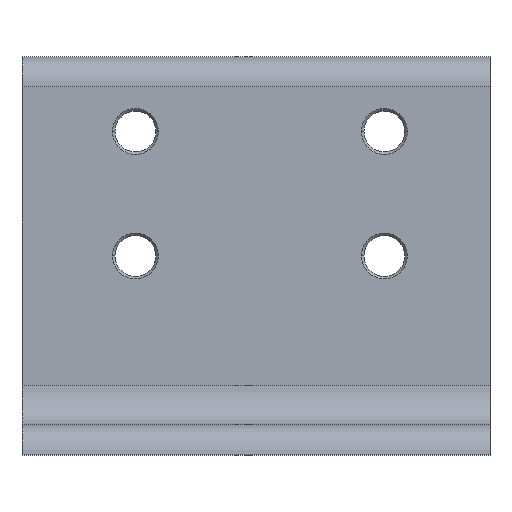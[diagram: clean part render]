
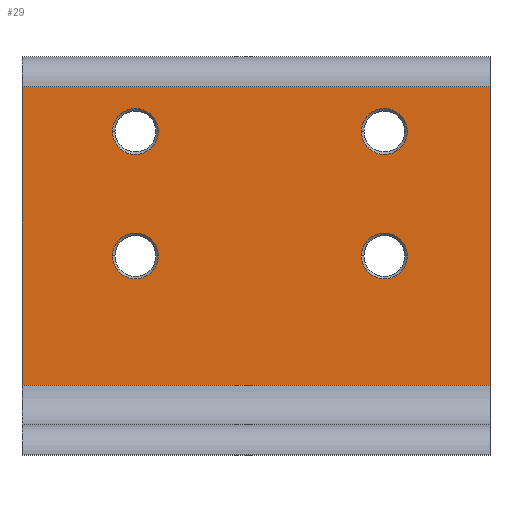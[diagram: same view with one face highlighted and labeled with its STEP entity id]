
A CAD part, top view. The second image highlights one B-rep face of the part: STEP entity #29.
In plain terms, the highlighted planar face has unit normal (0, 0, 1).
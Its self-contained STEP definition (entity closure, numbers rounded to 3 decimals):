
#5 = VERTEX_POINT ( 'NONE', #74 ) ;
#7 = PLANE ( 'NONE',  #789 ) ;
#8 = VERTEX_POINT ( 'NONE', #724 ) ;
#15 = CARTESIAN_POINT ( 'NONE',  ( 21.178, 40., -14. ) ) ;
#23 = CARTESIAN_POINT ( 'NONE',  ( 25.778, 65., -14. ) ) ;
#29 = ADVANCED_FACE ( 'NONE', ( #819, #475, #195, #1299, #1031 ), #7, .F. ) ;
#70 = CIRCLE ( 'NONE', #869, 4.6 ) ;
#73 = CARTESIAN_POINT ( 'NONE',  ( 47., 74., -14. ) ) ;
#74 = CARTESIAN_POINT ( 'NONE',  ( -47., 14., -14. ) ) ;
#77 = EDGE_CURVE ( 'NONE', #8, #290, #748, .T. ) ;
#83 = EDGE_LOOP ( 'NONE', ( #182, #430 ) ) ;
#88 = ORIENTED_EDGE ( 'NONE', *, *, #731, .T. ) ;
#103 = VECTOR ( 'NONE', #334, 1000. ) ;
#125 = DIRECTION ( 'NONE',  ( -1., 0., 0. ) ) ;
#156 = AXIS2_PLACEMENT_3D ( 'NONE', #1105, #448, #1204 ) ;
#160 = CARTESIAN_POINT ( 'NONE',  ( 25.778, 65., -14. ) ) ;
#164 = DIRECTION ( 'NONE',  ( -1., 0., 0. ) ) ;
#177 = DIRECTION ( 'NONE',  ( 0., 0., -1. ) ) ;
#182 = ORIENTED_EDGE ( 'NONE', *, *, #639, .T. ) ;
#190 = EDGE_LOOP ( 'NONE', ( #1353, #1069 ) ) ;
#195 = FACE_BOUND ( 'NONE', #83, .T. ) ;
#264 = DIRECTION ( 'NONE',  ( 0., 0., -1. ) ) ;
#265 = ORIENTED_EDGE ( 'NONE', *, *, #397, .T. ) ;
#274 = DIRECTION ( 'NONE',  ( -1., 0., 0. ) ) ;
#287 = DIRECTION ( 'NONE',  ( 0., 0., -1. ) ) ;
#290 = VERTEX_POINT ( 'NONE', #694 ) ;
#294 = EDGE_CURVE ( 'NONE', #883, #981, #880, .T. ) ;
#323 = CARTESIAN_POINT ( 'NONE',  ( -47., 80., -14. ) ) ;
#328 = EDGE_CURVE ( 'NONE', #1250, #985, #853, .T. ) ;
#332 = CIRCLE ( 'NONE', #1209, 4.6 ) ;
#334 = DIRECTION ( 'NONE',  ( 0., -1., 0. ) ) ;
#339 = CARTESIAN_POINT ( 'NONE',  ( 30.378, 65., -14. ) ) ;
#374 = ORIENTED_EDGE ( 'NONE', *, *, #708, .T. ) ;
#386 = CARTESIAN_POINT ( 'NONE',  ( -19.622, 40., -14. ) ) ;
#389 = AXIS2_PLACEMENT_3D ( 'NONE', #837, #177, #943 ) ;
#397 = EDGE_CURVE ( 'NONE', #1086, #765, #565, .T. ) ;
#415 = DIRECTION ( 'NONE',  ( -1., 0., 0. ) ) ;
#430 = ORIENTED_EDGE ( 'NONE', *, *, #294, .T. ) ;
#440 = CARTESIAN_POINT ( 'NONE',  ( -47., 74., -14. ) ) ;
#446 = DIRECTION ( 'NONE',  ( 0., 0., -1. ) ) ;
#448 = DIRECTION ( 'NONE',  ( 0., 0., -1. ) ) ;
#475 = FACE_BOUND ( 'NONE', #190, .T. ) ;
#515 = CARTESIAN_POINT ( 'NONE',  ( 47., 14., -14. ) ) ;
#536 = CARTESIAN_POINT ( 'NONE',  ( 25.778, 40., -14. ) ) ;
#565 = CIRCLE ( 'NONE', #389, 4.6 ) ;
#590 = DIRECTION ( 'NONE',  ( 0., 0., -1. ) ) ;
#600 = ORIENTED_EDGE ( 'NONE', *, *, #328, .T. ) ;
#606 = LINE ( 'NONE', #828, #1374 ) ;
#639 = EDGE_CURVE ( 'NONE', #981, #883, #717, .T. ) ;
#650 = DIRECTION ( 'NONE',  ( -1., 0., 0. ) ) ;
#654 = ORIENTED_EDGE ( 'NONE', *, *, #794, .T. ) ;
#694 = CARTESIAN_POINT ( 'NONE',  ( -28.822, 65., -14. ) ) ;
#697 = EDGE_CURVE ( 'NONE', #765, #1086, #70, .T. ) ;
#708 = EDGE_CURVE ( 'NONE', #5, #843, #606, .T. ) ;
#711 = CARTESIAN_POINT ( 'NONE',  ( -47., 74., -14. ) ) ;
#717 = CIRCLE ( 'NONE', #976, 4.6 ) ;
#724 = CARTESIAN_POINT ( 'NONE',  ( -19.622, 65., -14. ) ) ;
#731 = EDGE_CURVE ( 'NONE', #290, #8, #921, .T. ) ;
#741 = CIRCLE ( 'NONE', #1014, 4.6 ) ;
#748 = CIRCLE ( 'NONE', #156, 4.6 ) ;
#753 = CARTESIAN_POINT ( 'NONE',  ( 21.178, 65., -14. ) ) ;
#765 = VERTEX_POINT ( 'NONE', #386 ) ;
#778 = EDGE_CURVE ( 'NONE', #810, #970, #332, .T. ) ;
#787 = DIRECTION ( 'NONE',  ( 0., 0., -1. ) ) ;
#789 = AXIS2_PLACEMENT_3D ( 'NONE', #912, #264, #1025 ) ;
#794 = EDGE_CURVE ( 'NONE', #985, #5, #857, .T. ) ;
#810 = VERTEX_POINT ( 'NONE', #1090 ) ;
#819 = FACE_BOUND ( 'NONE', #968, .T. ) ;
#828 = CARTESIAN_POINT ( 'NONE',  ( -47., 14., -14. ) ) ;
#837 = CARTESIAN_POINT ( 'NONE',  ( -24.222, 40., -14. ) ) ;
#843 = VERTEX_POINT ( 'NONE', #515 ) ;
#853 = LINE ( 'NONE', #711, #1196 ) ;
#857 = LINE ( 'NONE', #323, #1138 ) ;
#869 = AXIS2_PLACEMENT_3D ( 'NONE', #938, #287, #1047 ) ;
#880 = CIRCLE ( 'NONE', #1355, 4.6 ) ;
#883 = VERTEX_POINT ( 'NONE', #753 ) ;
#912 = CARTESIAN_POINT ( 'NONE',  ( -47., 80., -14. ) ) ;
#917 = DIRECTION ( 'NONE',  ( 0., 0., -1. ) ) ;
#921 = CIRCLE ( 'NONE', #1006, 4.6 ) ;
#938 = CARTESIAN_POINT ( 'NONE',  ( -24.222, 40., -14. ) ) ;
#943 = DIRECTION ( 'NONE',  ( -1., 0., 0. ) ) ;
#948 = EDGE_LOOP ( 'NONE', ( #1223, #88 ) ) ;
#968 = EDGE_LOOP ( 'NONE', ( #1246, #265 ) ) ;
#970 = VERTEX_POINT ( 'NONE', #15 ) ;
#976 = AXIS2_PLACEMENT_3D ( 'NONE', #23, #787, #125 ) ;
#979 = DIRECTION ( 'NONE',  ( 0., -1., 0. ) ) ;
#981 = VERTEX_POINT ( 'NONE', #339 ) ;
#985 = VERTEX_POINT ( 'NONE', #440 ) ;
#1000 = CARTESIAN_POINT ( 'NONE',  ( -28.822, 40., -14. ) ) ;
#1006 = AXIS2_PLACEMENT_3D ( 'NONE', #1154, #446, #415 ) ;
#1014 = AXIS2_PLACEMENT_3D ( 'NONE', #1229, #590, #1339 ) ;
#1025 = DIRECTION ( 'NONE',  ( -1., 0., 0. ) ) ;
#1031 = FACE_OUTER_BOUND ( 'NONE', #1244, .T. ) ;
#1047 = DIRECTION ( 'NONE',  ( -1., 0., 0. ) ) ;
#1064 = ORIENTED_EDGE ( 'NONE', *, *, #1066, .F. ) ;
#1066 = EDGE_CURVE ( 'NONE', #1250, #843, #1179, .T. ) ;
#1069 = ORIENTED_EDGE ( 'NONE', *, *, #1245, .T. ) ;
#1086 = VERTEX_POINT ( 'NONE', #1000 ) ;
#1090 = CARTESIAN_POINT ( 'NONE',  ( 30.378, 40., -14. ) ) ;
#1095 = CARTESIAN_POINT ( 'NONE',  ( 47., 80., -14. ) ) ;
#1105 = CARTESIAN_POINT ( 'NONE',  ( -24.222, 65., -14. ) ) ;
#1138 = VECTOR ( 'NONE', #979, 1000. ) ;
#1148 = DIRECTION ( 'NONE',  ( 1., 0., 0. ) ) ;
#1154 = CARTESIAN_POINT ( 'NONE',  ( -24.222, 65., -14. ) ) ;
#1179 = LINE ( 'NONE', #1095, #103 ) ;
#1196 = VECTOR ( 'NONE', #164, 1000. ) ;
#1204 = DIRECTION ( 'NONE',  ( -1., 0., 0. ) ) ;
#1209 = AXIS2_PLACEMENT_3D ( 'NONE', #536, #1285, #650 ) ;
#1223 = ORIENTED_EDGE ( 'NONE', *, *, #77, .T. ) ;
#1229 = CARTESIAN_POINT ( 'NONE',  ( 25.778, 40., -14. ) ) ;
#1244 = EDGE_LOOP ( 'NONE', ( #1064, #600, #654, #374 ) ) ;
#1245 = EDGE_CURVE ( 'NONE', #970, #810, #741, .T. ) ;
#1246 = ORIENTED_EDGE ( 'NONE', *, *, #697, .T. ) ;
#1250 = VERTEX_POINT ( 'NONE', #73 ) ;
#1285 = DIRECTION ( 'NONE',  ( 0., 0., -1. ) ) ;
#1299 = FACE_BOUND ( 'NONE', #948, .T. ) ;
#1339 = DIRECTION ( 'NONE',  ( -1., 0., 0. ) ) ;
#1353 = ORIENTED_EDGE ( 'NONE', *, *, #778, .T. ) ;
#1355 = AXIS2_PLACEMENT_3D ( 'NONE', #160, #917, #274 ) ;
#1374 = VECTOR ( 'NONE', #1148, 1000. ) ;
